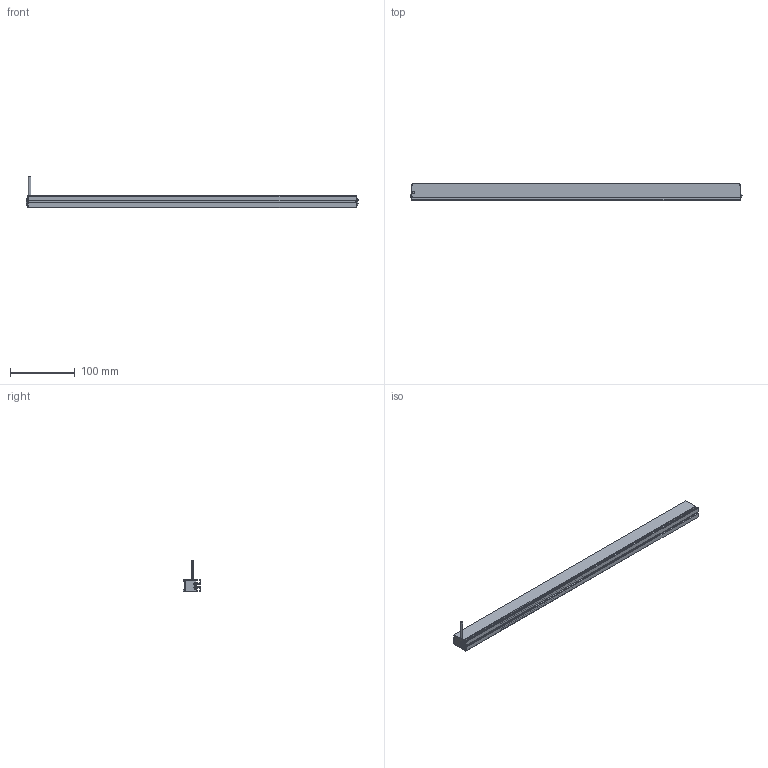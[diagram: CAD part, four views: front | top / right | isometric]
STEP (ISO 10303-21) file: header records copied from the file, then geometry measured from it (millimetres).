
FILE_DESCRIPTION((''),'2;1');
FILE_NAME('MV-LLDS-507-18_ASM','2020-12-30T',('Administrator'),(''),'PRO/ENGINEER BY PARAMETRIC TECHNOLOGY CORPORATION, 2010100','PRO/ENGINEER BY PARAMETRIC TECHNOLOGY CORPORATION, 2010100','');
FILE_SCHEMA(('CONFIG_CONTROL_DESIGN'));
Length unit declared in the file: millimetre
Products named in the file (3): BL_2_-_2_; M3-5_3; MV-LLDS-507-18_ASM
Assembly tree (5 placements, depth 2):
  MV-LLDS-507-18_ASM
    BL_2_-_2_
    M3-5_3  x4
Bounding box: 511.68 x 27 x 48 mm (x, y, z)
Volume: 201674.4 mm3; surface area: 90005 mm2
Topology: 5 solids, 13 shells, 327 faces, 872 edges, 560 vertices
Faces by surface type: plane 213, cylinder 66, cone 16, bspline 16, torus 8, sphere 8
Entity records: 7485 total; most frequent: CARTESIAN_POINT 1567, ORIENTED_EDGE 1214, DIRECTION 1184, EDGE_CURVE 617, VECTOR 472, LINE 472, VERTEX_POINT 401, AXIS2_PLACEMENT_3D 356
